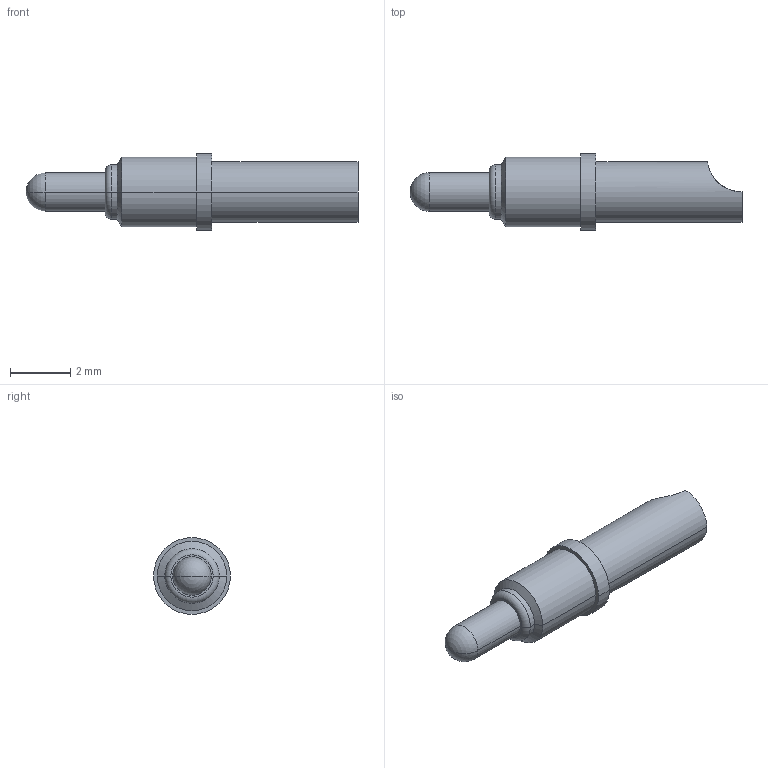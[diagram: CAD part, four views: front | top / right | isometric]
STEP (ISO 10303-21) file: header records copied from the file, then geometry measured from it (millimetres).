
FILE_DESCRIPTION((''),'2;1');
FILE_NAME('PRT0001','2022-12-28T10:18:40',('USER'),(''),'CREO PARAMETRIC BY PTC INC, 2018400','CREO PARAMETRIC BY PTC INC, 2018400','');
FILE_SCHEMA(('CONFIG_CONTROL_DESIGN','SHAPE_APPEARANCE_LAYERS_GROUPS'));
Length unit declared in the file: millimetre
Products named in the file (1): PRT0001
Bounding box: 10.98 x 2.54 x 2.54 mm (x, y, z)
Volume: 28.7 mm3; surface area: 76.9 mm2
Topology: 1 solids, 1 shells, 25 faces, 56 edges, 32 vertices
Faces by surface type: cylinder 13, plane 4, cone 4, sphere 2, torus 2
Entity records: 947 total; most frequent: CARTESIAN_POINT 164, DIRECTION 128, ORIENTED_EDGE 104, AXIS2_PLACEMENT_3D 55, PRESENTATION_STYLE_ASSIGNMENT 53, STYLED_ITEM 53, CURVE_STYLE 52, EDGE_CURVE 52
